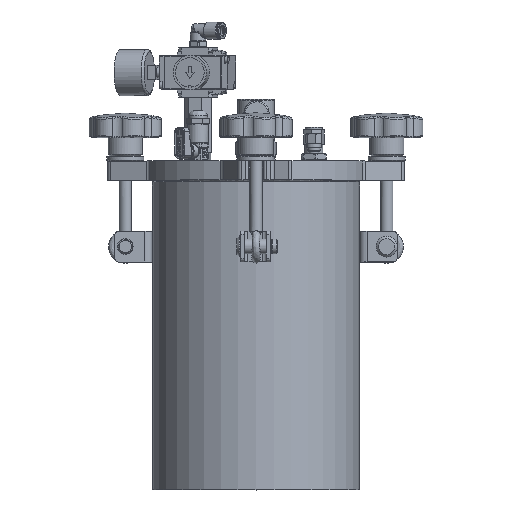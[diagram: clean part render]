
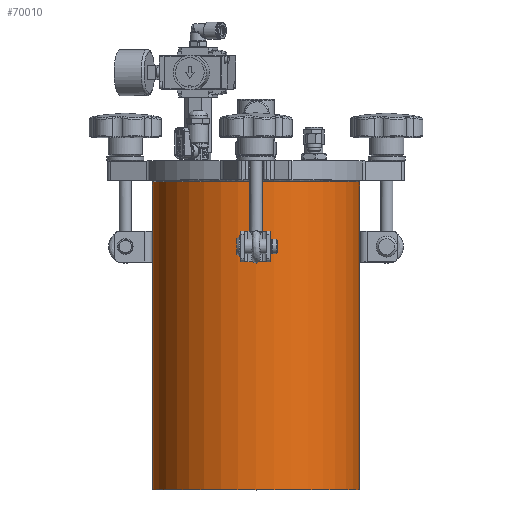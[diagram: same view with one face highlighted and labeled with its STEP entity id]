
A CAD part, top view. The second image highlights one B-rep face of the part: STEP entity #70010.
In plain terms, the highlighted cylindrical face has radius 84.15 mm (diameter 168.3 mm), a full revolution.
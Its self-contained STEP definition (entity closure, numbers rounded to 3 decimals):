
#2394 = VERTEX_POINT ( 'NONE', #46460 ) ;
#3321 = DIRECTION ( 'NONE',  ( 0., -1., 0. ) ) ;
#3415 = AXIS2_PLACEMENT_3D ( 'NONE', #30954, #3321, #45931 ) ;
#5699 = CIRCLE ( 'NONE', #3415, 84.15 ) ;
#7038 = AXIS2_PLACEMENT_3D ( 'NONE', #69467, #19545, #41775 ) ;
#9890 = EDGE_CURVE ( 'NONE', #2394, #2394, #18673, .T. ) ;
#15564 = CARTESIAN_POINT ( 'NONE',  ( 114.65, 250., -84.15 ) ) ;
#18160 = DIRECTION ( 'NONE',  ( 0., 0., -1. ) ) ;
#18673 = CIRCLE ( 'NONE', #7038, 84.15 ) ;
#19545 = DIRECTION ( 'NONE',  ( 0., 1., 0. ) ) ;
#23260 = CYLINDRICAL_SURFACE ( 'NONE', #39132, 84.15 ) ;
#24851 = ORIENTED_EDGE ( 'NONE', *, *, #63401, .T. ) ;
#25630 = ORIENTED_EDGE ( 'NONE', *, *, #9890, .T. ) ;
#29409 = CARTESIAN_POINT ( 'NONE',  ( 114.65, 250., 0. ) ) ;
#30954 = CARTESIAN_POINT ( 'NONE',  ( 114.65, 250., 0. ) ) ;
#39132 = AXIS2_PLACEMENT_3D ( 'NONE', #29409, #56397, #18160 ) ;
#41775 = DIRECTION ( 'NONE',  ( 0., 0., -1. ) ) ;
#42845 = EDGE_LOOP ( 'NONE', ( #24851 ) ) ;
#45841 = FACE_OUTER_BOUND ( 'NONE', #42845, .T. ) ;
#45931 = DIRECTION ( 'NONE',  ( 0., 0., -1. ) ) ;
#46460 = CARTESIAN_POINT ( 'NONE',  ( 114.65, 0., -84.15 ) ) ;
#53092 = EDGE_LOOP ( 'NONE', ( #25630 ) ) ;
#53781 = VERTEX_POINT ( 'NONE', #15564 ) ;
#56397 = DIRECTION ( 'NONE',  ( 0., -1., 0. ) ) ;
#63401 = EDGE_CURVE ( 'NONE', #53781, #53781, #5699, .T. ) ;
#67360 = FACE_OUTER_BOUND ( 'NONE', #53092, .T. ) ;
#69467 = CARTESIAN_POINT ( 'NONE',  ( 114.65, 0., 0. ) ) ;
#70010 = ADVANCED_FACE ( 'NONE', ( #67360, #45841 ), #23260, .T. ) ;
